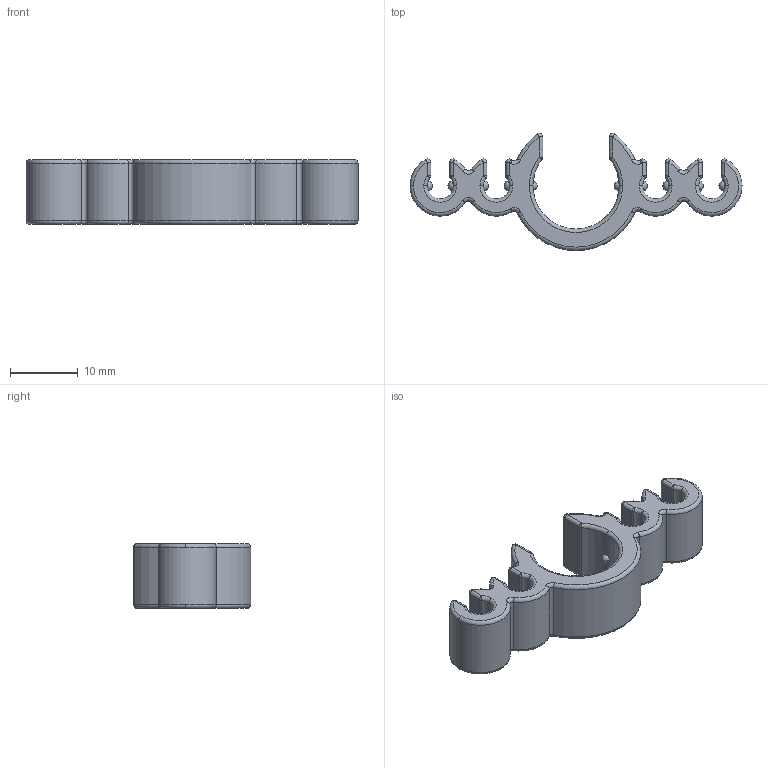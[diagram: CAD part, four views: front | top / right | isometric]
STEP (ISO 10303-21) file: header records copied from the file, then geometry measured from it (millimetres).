
FILE_DESCRIPTION (( 'STEP AP203' ), '1' );
FILE_NAME ('5012585_REV-A - 4X 0.156 + 1X 0.50 TUBING SEPARATOR CLIP.STEP', '2026-08-27T16:30:30', ( '' ), ( '' ), 'SwSTEP 2.0', 'SolidWorks 2019', '' );
FILE_SCHEMA (( 'CONFIG_CONTROL_DESIGN' ));
Length unit declared in the file: inch
Products named in the file (1): 5012585_REV-A - 4X 0.156 + 1X 0.50 TUBING SEPARATOR CLIP
Bounding box: 48.85 x 17.26 x 9.53 mm (x, y, z)
Volume: 2588.9 mm3; surface area: 2302.3 mm2
Topology: 1 solids, 1 shells, 223 faces, 558 edges, 301 vertices
Faces by surface type: cylinder 77, torus 74, sphere 60, plane 12
Entity records: 6454 total; most frequent: CARTESIAN_POINT 1321, DIRECTION 1237, ORIENTED_EDGE 986, AXIS2_PLACEMENT_3D 560, EDGE_CURVE 493, CIRCLE 336, VERTEX_POINT 272, EDGE_LOOP 223
